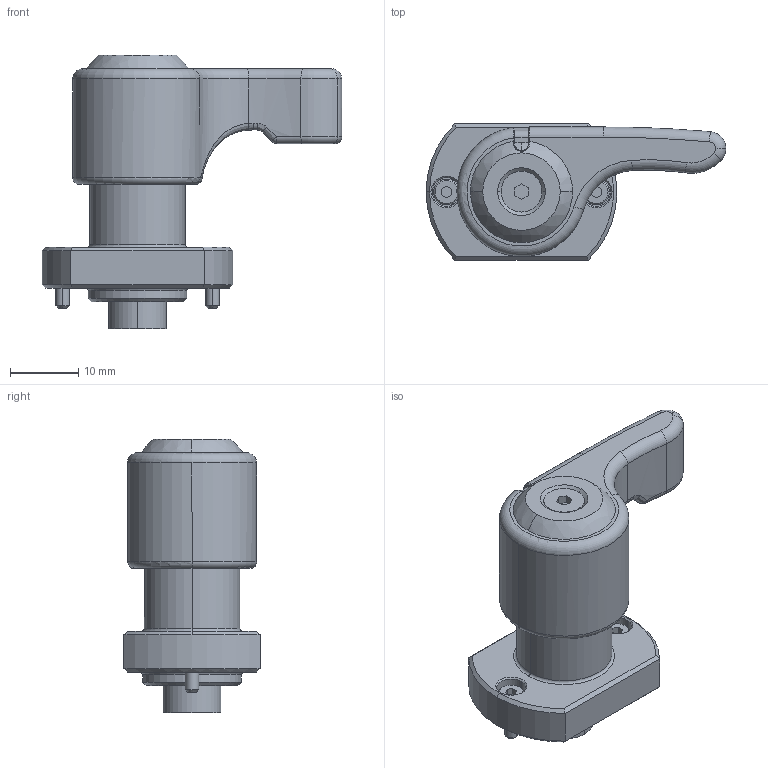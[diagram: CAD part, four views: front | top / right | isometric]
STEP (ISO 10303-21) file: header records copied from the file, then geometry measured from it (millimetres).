
FILE_DESCRIPTION (( 'STEP AP203' ), '1' );
FILE_NAME ('qcps0828-6-bk-f.STEP', '2023-04-07T01:55:24', ( '' ), ( '' ), 'SwSTEP 2.0', 'SolidWorks 2021', '' );
FILE_SCHEMA (( 'CONFIG_CONTROL_DESIGN' ));
Length unit declared in the file: millimetre
Products named in the file (4): qcps0828-6-bk-f_02_蹬怮椔; qcps0828-6-bk-f_01_蹬怮椔; qcps0828-6-bk-f; qcps0828-6-bk-f_03_蹬怮椔
Assembly tree (3 placements, depth 2):
  qcps0828-6-bk-f
    qcps0828-6-bk-f_01_蹬怮椔
    qcps0828-6-bk-f_02_蹬怮椔
    qcps0828-6-bk-f_03_蹬怮椔
Bounding box: 44 x 20 x 40.21 mm (x, y, z)
Volume: 9599.1 mm3; surface area: 7710.5 mm2
Topology: 3 solids, 3 shells, 354 faces, 827 edges, 514 vertices
Faces by surface type: plane 136, cylinder 105, cone 39, torus 37, bspline 26, sphere 11
Entity records: 11457 total; most frequent: CARTESIAN_POINT 2930, DIRECTION 1770, ORIENTED_EDGE 1648, EDGE_CURVE 824, AXIS2_PLACEMENT_3D 693, VERTEX_POINT 514, EDGE_LOOP 394, VECTOR 384
